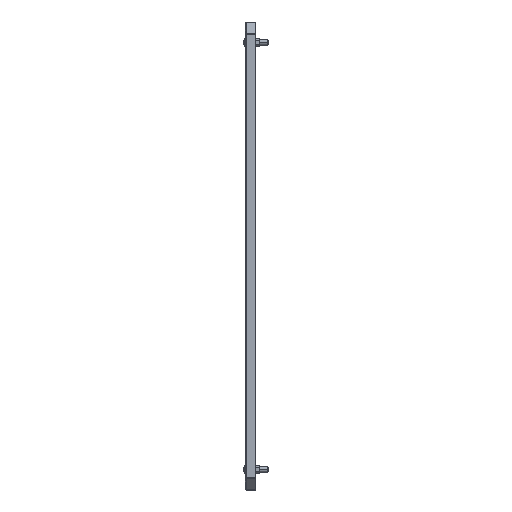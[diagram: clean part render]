
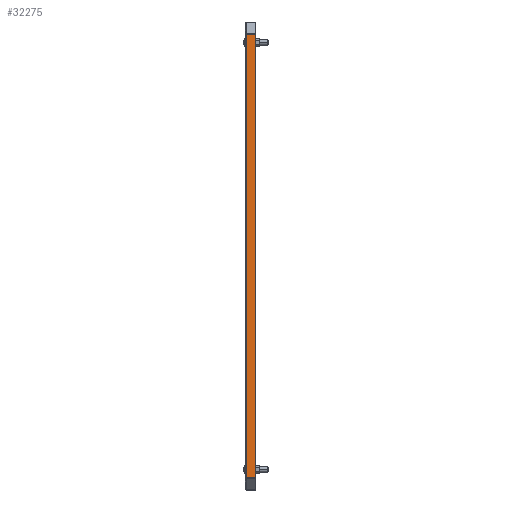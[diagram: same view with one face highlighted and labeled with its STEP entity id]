
A CAD part, left-side view. The second image highlights one B-rep face of the part: STEP entity #32275.
In plain terms, the highlighted planar face has unit normal (-1, 0, 0).
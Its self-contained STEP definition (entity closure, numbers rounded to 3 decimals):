
#32275 = ADVANCED_FACE ( 'NONE', ( #36686 ), #33121, .F. ) ;
#33121 = PLANE ( 'NONE',  #36691 ) ;
#33122 = CARTESIAN_POINT ( 'NONE',  ( -400., -18., 380. ) ) ;
#33123 = DIRECTION ( 'NONE',  ( 1., 0., 0. ) ) ;
#33124 = DIRECTION ( 'NONE',  ( 0., 1., 0. ) ) ;
#36686 = FACE_OUTER_BOUND ( 'NONE', #49279, .T. ) ;
#36691 = AXIS2_PLACEMENT_3D ( 'NONE', #33122, #33123, #33124 ) ;
#42562 = CARTESIAN_POINT ( 'NONE',  ( -400., -18., 379.395 ) ) ;
#42567 = CARTESIAN_POINT ( 'NONE',  ( -400., -18., -379.395 ) ) ;
#42575 = CARTESIAN_POINT ( 'NONE',  ( -400., -2.4, 379.395 ) ) ;
#42579 = CARTESIAN_POINT ( 'NONE',  ( -400., -2.4, -379.395 ) ) ;
#43619 = VECTOR ( 'NONE', #46385, 1000. ) ;
#43623 = VECTOR ( 'NONE', #46397, 1000. ) ;
#43626 = VECTOR ( 'NONE', #46408, 1000. ) ;
#43628 = VECTOR ( 'NONE', #46411, 1000. ) ;
#45729 = VERTEX_POINT ( 'NONE', #42562 ) ;
#45735 = VERTEX_POINT ( 'NONE', #42567 ) ;
#45744 = VERTEX_POINT ( 'NONE', #42575 ) ;
#45750 = VERTEX_POINT ( 'NONE', #42579 ) ;
#46383 = LINE ( 'NONE', #46384, #43619 ) ;
#46384 = CARTESIAN_POINT ( 'NONE',  ( -400., -2.4, 380. ) ) ;
#46385 = DIRECTION ( 'NONE',  ( 0., 0., 1. ) ) ;
#46395 = LINE ( 'NONE', #46396, #43623 ) ;
#46396 = CARTESIAN_POINT ( 'NONE',  ( -400., -18., 380. ) ) ;
#46397 = DIRECTION ( 'NONE',  ( 0., 0., -1. ) ) ;
#46405 = LINE ( 'NONE', #46407, #43626 ) ;
#46407 = CARTESIAN_POINT ( 'NONE',  ( -400., -1.2, 379.395 ) ) ;
#46408 = DIRECTION ( 'NONE',  ( 0., -1., 0. ) ) ;
#46409 = LINE ( 'NONE', #46410, #43628 ) ;
#46410 = CARTESIAN_POINT ( 'NONE',  ( -400., -18., -379.395 ) ) ;
#46411 = DIRECTION ( 'NONE',  ( 0., -1., 0. ) ) ;
#49279 = EDGE_LOOP ( 'NONE', ( #53704, #53705, #53703, #53707 ) ) ;
#51839 = EDGE_CURVE ( 'NONE', #45750, #45744, #46383, .T. ) ;
#51843 = EDGE_CURVE ( 'NONE', #45729, #45735, #46395, .T. ) ;
#51846 = EDGE_CURVE ( 'NONE', #45744, #45729, #46405, .T. ) ;
#51847 = EDGE_CURVE ( 'NONE', #45750, #45735, #46409, .T. ) ;
#53703 = ORIENTED_EDGE ( 'NONE', *, *, #51843, .F. ) ;
#53704 = ORIENTED_EDGE ( 'NONE', *, *, #51839, .F. ) ;
#53705 = ORIENTED_EDGE ( 'NONE', *, *, #51847, .T. ) ;
#53707 = ORIENTED_EDGE ( 'NONE', *, *, #51846, .F. ) ;
